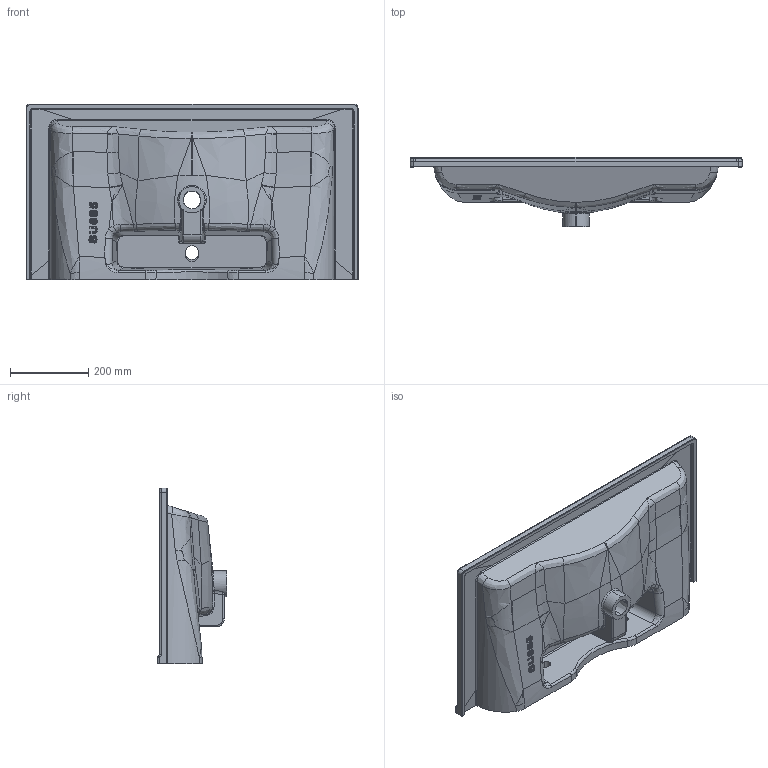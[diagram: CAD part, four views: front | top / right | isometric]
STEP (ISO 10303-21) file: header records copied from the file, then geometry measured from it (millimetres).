
FILE_DESCRIPTION (( 'STEP AP203' ), '1' );
FILE_NAME ('SU085 MODEL.STEP', '2022-04-06T10:31:26', ( '' ), ( '' ), 'SwSTEP 2.0', 'SolidWorks 2021', '' );
FILE_SCHEMA (( 'CONFIG_CONTROL_DESIGN' ));
Length unit declared in the file: millimetre
Products named in the file (1): SU085 MODEL
Bounding box: 850 x 177.5 x 450 mm (x, y, z)
Volume: 14813160.2 mm3; surface area: 1153222.1 mm2
Topology: 2 solids, 2 shells, 743 faces, 1792 edges, 1043 vertices
Faces by surface type: bspline 341, cylinder 177, torus 84, plane 82, sphere 57, cone 2
Entity records: 44238 total; most frequent: CARTESIAN_POINT 29405, ORIENTED_EDGE 3514, DIRECTION 2590, EDGE_CURVE 1757, AXIS2_PLACEMENT_3D 1098, VERTEX_POINT 1029, EDGE_LOOP 756, ADVANCED_FACE 739
